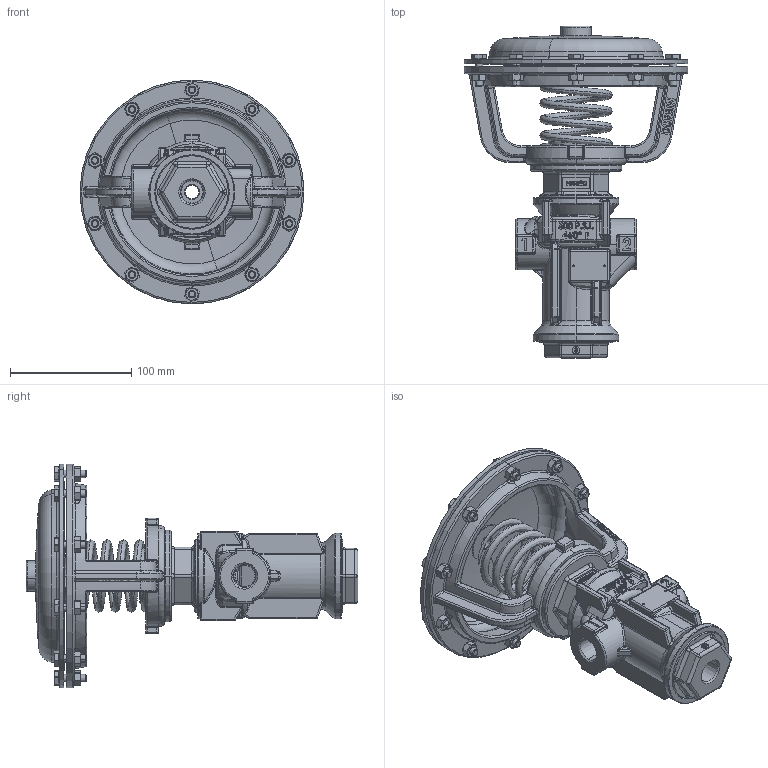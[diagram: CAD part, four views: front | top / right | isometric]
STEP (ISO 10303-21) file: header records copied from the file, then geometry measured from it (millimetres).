
FILE_DESCRIPTION (( 'STEP AP203' ), '1' );
FILE_NAME ('.50-.75 3W LG NPT SC500-STEP.STEP', '2018-11-07T14:51:10', ( '' ), ( '' ), 'SwSTEP 2.0', 'SolidWorks 2012', '' );
FILE_SCHEMA (( 'CONFIG_CONTROL_DESIGN' ));
Length unit declared in the file: inch
Products named in the file (11): .50-.75 3W LG NPT SC500-STEP; H060-03; H096-10; D293-160DR; C293-023DR; D771; C293-023DM; C213-177D-SS; C093-151D-SS; C013-006D-SS; D283-140D-SS
Assembly tree (28 placements, depth 3):
  .50-.75 3W LG NPT SC500-STEP
    D283-140D-SS
    C013-006D-SS
    C093-151D-SS
    C213-177D-SS
    C293-023DR
      C293-023DM
      D771
    D293-160DR
    H096-10  x10
    H060-03  x10
Bounding box: 184.4 x 273.44 x 184.4 mm (x, y, z)
Volume: 734337.3 mm3; surface area: 282390.6 mm2
Topology: 27 solids, 27 shells, 3697 faces, 8706 edges, 5008 vertices
Faces by surface type: plane 941, bspline 922, cylinder 814, torus 342, cone 340, sphere 338
Entity records: 125594 total; most frequent: CARTESIAN_POINT 65305, ORIENTED_EDGE 13284, DIRECTION 10683, EDGE_CURVE 6642, AXIS2_PLACEMENT_3D 4132, VERTEX_POINT 4036, EDGE_LOOP 2936, ADVANCED_FACE 2743
